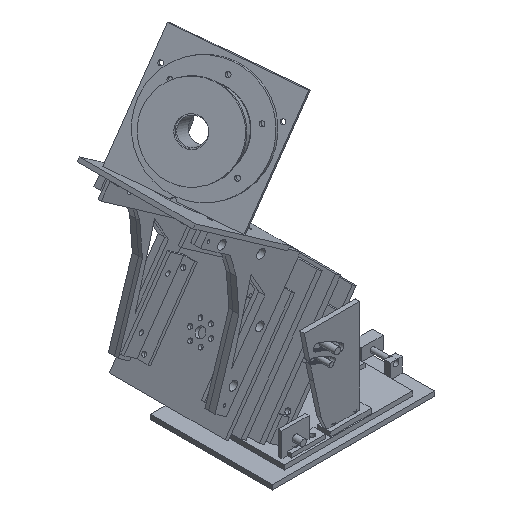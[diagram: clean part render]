
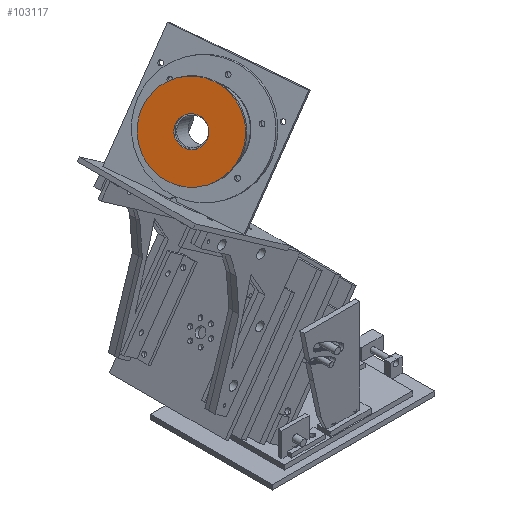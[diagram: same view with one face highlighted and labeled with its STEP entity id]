
A CAD part, isometric view. The second image highlights one B-rep face of the part: STEP entity #103117.
In plain terms, the highlighted planar face has unit normal (-0.742, -0.423, 0.52).
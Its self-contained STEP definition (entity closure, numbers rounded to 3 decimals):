
#102951 = VERTEX_POINT('',#102952);
#102952 = CARTESIAN_POINT('',(-148.925,-46.911,
    464.123));
#102959 = CYLINDRICAL_SURFACE('',#102960,51.);
#102960 = AXIS2_PLACEMENT_3D('',#102961,#102962,#102963);
#102961 = CARTESIAN_POINT('',(-174.465,-44.798,
    419.747));
#102962 = DIRECTION('',(0.742,0.423,-0.52));
#102963 = DIRECTION('',(0.574,0.,0.819));
#102978 = EDGE_CURVE('',#102951,#102951,#102979,.T.);
#102979 = SURFACE_CURVE('',#102980,(#102985,#102992),.PCURVE_S1.);
#102980 = CIRCLE('',#102981,51.);
#102981 = AXIS2_PLACEMENT_3D('',#102982,#102983,#102984);
#102982 = CARTESIAN_POINT('',(-178.177,-46.911,
    422.346));
#102983 = DIRECTION('',(-0.742,-0.423,0.52)
  );
#102984 = DIRECTION('',(0.574,0.,0.819));
#102985 = PCURVE('',#102959,#102986);
#102986 = DEFINITIONAL_REPRESENTATION('',(#102987),#102991);
#102987 = LINE('',#102988,#102989);
#102988 = CARTESIAN_POINT('',(-0.,-5.));
#102989 = VECTOR('',#102990,1.);
#102990 = DIRECTION('',(-1.,0.));
#102991 = ( GEOMETRIC_REPRESENTATION_CONTEXT(2) 
PARAMETRIC_REPRESENTATION_CONTEXT() REPRESENTATION_CONTEXT('2D SPACE',''
  ) );
#102992 = PCURVE('',#102993,#102998);
#102993 = PLANE('',#102994);
#102994 = AXIS2_PLACEMENT_3D('',#102995,#102996,#102997);
#102995 = CARTESIAN_POINT('',(-178.177,-46.911,
    422.346));
#102996 = DIRECTION('',(-0.742,-0.423,0.52)
  );
#102997 = DIRECTION('',(0.574,0.,0.819));
#102998 = DEFINITIONAL_REPRESENTATION('',(#102999),#103003);
#102999 = CIRCLE('',#103000,51.);
#103000 = AXIS2_PLACEMENT_2D('',#103001,#103002);
#103001 = CARTESIAN_POINT('',(0.,0.));
#103002 = DIRECTION('',(1.,0.));
#103003 = ( GEOMETRIC_REPRESENTATION_CONTEXT(2) 
PARAMETRIC_REPRESENTATION_CONTEXT() REPRESENTATION_CONTEXT('2D SPACE',''
  ) );
#103039 = VERTEX_POINT('',#103040);
#103040 = CARTESIAN_POINT('',(-168.713,-46.911,
    435.862));
#103047 = CYLINDRICAL_SURFACE('',#103048,16.5);
#103048 = AXIS2_PLACEMENT_3D('',#103049,#103050,#103051);
#103049 = CARTESIAN_POINT('',(-174.465,-44.798,
    419.747));
#103050 = DIRECTION('',(0.742,0.423,-0.52));
#103051 = DIRECTION('',(0.574,0.,0.819));
#103066 = EDGE_CURVE('',#103039,#103039,#103067,.T.);
#103067 = SURFACE_CURVE('',#103068,(#103073,#103080),.PCURVE_S1.);
#103068 = CIRCLE('',#103069,16.5);
#103069 = AXIS2_PLACEMENT_3D('',#103070,#103071,#103072);
#103070 = CARTESIAN_POINT('',(-178.177,-46.911,
    422.346));
#103071 = DIRECTION('',(-0.742,-0.423,0.52)
  );
#103072 = DIRECTION('',(0.574,0.,0.819));
#103073 = PCURVE('',#103047,#103074);
#103074 = DEFINITIONAL_REPRESENTATION('',(#103075),#103079);
#103075 = LINE('',#103076,#103077);
#103076 = CARTESIAN_POINT('',(-0.,-5.));
#103077 = VECTOR('',#103078,1.);
#103078 = DIRECTION('',(-1.,0.));
#103079 = ( GEOMETRIC_REPRESENTATION_CONTEXT(2) 
PARAMETRIC_REPRESENTATION_CONTEXT() REPRESENTATION_CONTEXT('2D SPACE',''
  ) );
#103080 = PCURVE('',#102993,#103081);
#103081 = DEFINITIONAL_REPRESENTATION('',(#103082),#103086);
#103082 = CIRCLE('',#103083,16.5);
#103083 = AXIS2_PLACEMENT_2D('',#103084,#103085);
#103084 = CARTESIAN_POINT('',(0.,0.));
#103085 = DIRECTION('',(1.,0.));
#103086 = ( GEOMETRIC_REPRESENTATION_CONTEXT(2) 
PARAMETRIC_REPRESENTATION_CONTEXT() REPRESENTATION_CONTEXT('2D SPACE',''
  ) );
#103117 = ADVANCED_FACE('',(#103118,#103121),#102993,.T.);
#103118 = FACE_BOUND('',#103119,.T.);
#103119 = EDGE_LOOP('',(#103120));
#103120 = ORIENTED_EDGE('',*,*,#102978,.T.);
#103121 = FACE_BOUND('',#103122,.T.);
#103122 = EDGE_LOOP('',(#103123));
#103123 = ORIENTED_EDGE('',*,*,#103066,.F.);
